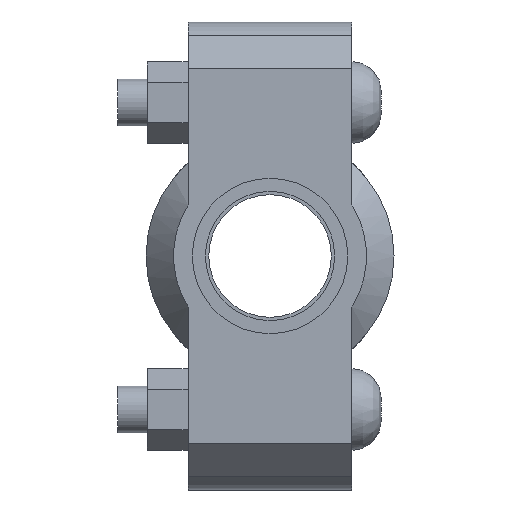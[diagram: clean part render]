
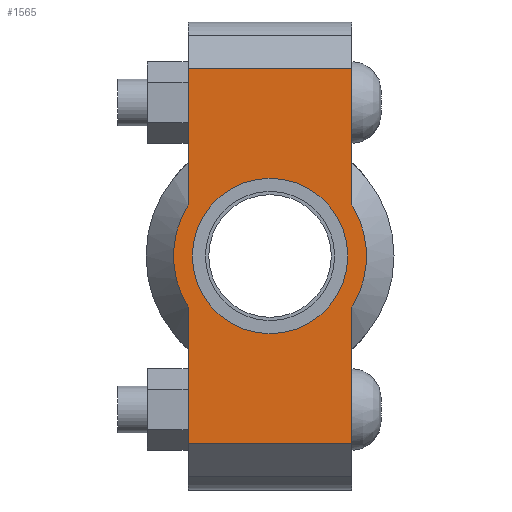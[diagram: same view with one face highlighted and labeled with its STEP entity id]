
A CAD part, left-side view. The second image highlights one B-rep face of the part: STEP entity #1565.
In plain terms, the highlighted planar face has unit normal (-1, 0, 0) as drawn and (0, 0, 1) by its records, which use the part's own axes.
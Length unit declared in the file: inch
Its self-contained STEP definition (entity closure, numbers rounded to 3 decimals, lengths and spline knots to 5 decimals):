
#120=LINE('',#2705,#217);
#135=LINE('',#2764,#232);
#143=LINE('',#2794,#240);
#145=LINE('',#2797,#242);
#146=LINE('',#2802,#243);
#147=LINE('',#2803,#244);
#217=VECTOR('',#2209,0.3937);
#232=VECTOR('',#2244,0.3937);
#240=VECTOR('',#2264,0.3937);
#242=VECTOR('',#2268,0.3937);
#243=VECTOR('',#2273,0.3937);
#244=VECTOR('',#2274,0.3937);
#308=FACE_BOUND('',#485,.T.);
#376=FACE_OUTER_BOUND('',#484,.T.);
#484=EDGE_LOOP('',(#1266,#1267,#1268,#1269,#1270,#1271,#1272,#1273));
#485=EDGE_LOOP('',(#1274));
#567=CIRCLE('',#1793,0.83);
#591=CIRCLE('',#1845,1.031);
#592=CIRCLE('',#1846,1.031);
#663=VERTEX_POINT('',#2531);
#704=VERTEX_POINT('',#2702);
#705=VERTEX_POINT('',#2704);
#726=VERTEX_POINT('',#2759);
#727=VERTEX_POINT('',#2763);
#736=VERTEX_POINT('',#2789);
#737=VERTEX_POINT('',#2793);
#738=VERTEX_POINT('',#2799);
#739=VERTEX_POINT('',#2801);
#827=EDGE_CURVE('',#663,#663,#567,.T.);
#884=EDGE_CURVE('',#705,#704,#120,.T.);
#909=EDGE_CURVE('',#727,#726,#135,.T.);
#922=EDGE_CURVE('',#737,#736,#143,.T.);
#924=EDGE_CURVE('',#737,#704,#145,.T.);
#925=EDGE_CURVE('',#736,#738,#591,.T.);
#926=EDGE_CURVE('',#738,#739,#146,.T.);
#927=EDGE_CURVE('',#727,#739,#147,.T.);
#928=EDGE_CURVE('',#726,#705,#592,.T.);
#1266=ORIENTED_EDGE('',*,*,#924,.F.);
#1267=ORIENTED_EDGE('',*,*,#922,.T.);
#1268=ORIENTED_EDGE('',*,*,#925,.T.);
#1269=ORIENTED_EDGE('',*,*,#926,.T.);
#1270=ORIENTED_EDGE('',*,*,#927,.F.);
#1271=ORIENTED_EDGE('',*,*,#909,.T.);
#1272=ORIENTED_EDGE('',*,*,#928,.T.);
#1273=ORIENTED_EDGE('',*,*,#884,.T.);
#1274=ORIENTED_EDGE('',*,*,#827,.T.);
#1405=PLANE('',#1844);
#1565=ADVANCED_FACE('',(#376,#308),#1405,.T.);
#1793=AXIS2_PLACEMENT_3D('',#2533,#2099,#2100);
#1844=AXIS2_PLACEMENT_3D('',#2798,#2269,#2270);
#1845=AXIS2_PLACEMENT_3D('',#2800,#2271,#2272);
#1846=AXIS2_PLACEMENT_3D('',#2804,#2275,#2276);
#2099=DIRECTION('center_axis',(0.,0.,-1.));
#2100=DIRECTION('ref_axis',(-1.,0.,0.));
#2209=DIRECTION('',(-1.,0.,0.));
#2244=DIRECTION('',(-1.,0.,0.));
#2264=DIRECTION('',(1.,0.,0.));
#2268=DIRECTION('',(0.,1.,0.));
#2269=DIRECTION('center_axis',(0.,0.,1.));
#2270=DIRECTION('ref_axis',(1.,0.,0.));
#2271=DIRECTION('center_axis',(0.,0.,1.));
#2272=DIRECTION('ref_axis',(-1.,0.,0.));
#2273=DIRECTION('',(1.,0.,0.));
#2274=DIRECTION('',(0.,-1.,0.));
#2275=DIRECTION('center_axis',(0.,0.,1.));
#2276=DIRECTION('ref_axis',(-1.,0.,0.));
#2531=CARTESIAN_POINT('',(0.83,0.,0.94));
#2533=CARTESIAN_POINT('Origin',(0.,0.,0.94));
#2702=CARTESIAN_POINT('',(-2.,0.875,0.94));
#2704=CARTESIAN_POINT('',(-0.54529,0.875,0.94));
#2705=CARTESIAN_POINT('',(2.5,0.875,0.94));
#2759=CARTESIAN_POINT('',(0.54529,0.875,0.94));
#2763=CARTESIAN_POINT('',(2.,0.875,0.94));
#2764=CARTESIAN_POINT('',(2.5,0.875,0.94));
#2789=CARTESIAN_POINT('',(-0.54529,-0.875,0.94));
#2793=CARTESIAN_POINT('',(-2.,-0.875,0.94));
#2794=CARTESIAN_POINT('',(-2.5,-0.875,0.94));
#2797=CARTESIAN_POINT('',(-2.,0.4375,0.94));
#2798=CARTESIAN_POINT('Origin',(0.,0.,
0.94));
#2799=CARTESIAN_POINT('',(0.54529,-0.875,0.94));
#2800=CARTESIAN_POINT('Origin',(0.,0.,0.94));
#2801=CARTESIAN_POINT('',(2.,-0.875,0.94));
#2802=CARTESIAN_POINT('',(-2.5,-0.875,0.94));
#2803=CARTESIAN_POINT('',(2.,-0.4375,0.94));
#2804=CARTESIAN_POINT('Origin',(0.,0.,0.94));
